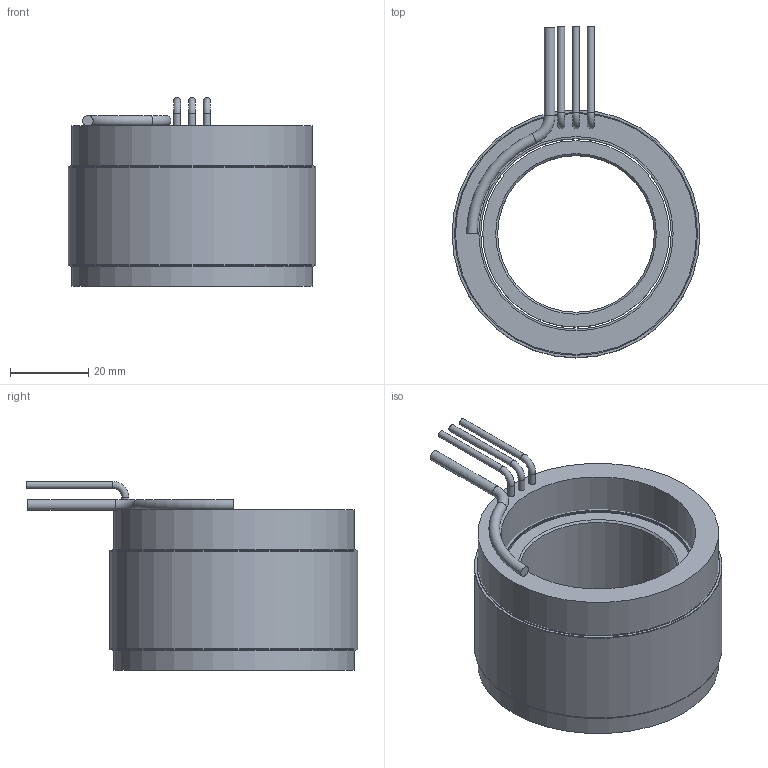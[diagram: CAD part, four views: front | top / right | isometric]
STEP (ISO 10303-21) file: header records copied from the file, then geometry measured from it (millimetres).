
FILE_DESCRIPTION (( 'STEP AP214' ), '1' );
FILE_NAME ('6100391-03.STEP', '2020-12-15T02:39:47', ( '' ), ( '' ), 'SwSTEP 2.0', 'SolidWorks 2016', '' );
FILE_SCHEMA (( 'AUTOMOTIVE_DESIGN' ));
Length unit declared in the file: inch
Products named in the file (10): 4400101-00; 4450189-XX_4450189-03; 6100391-03; 4250379-XX_4250379-03; 4150178-XX_4150178-03; 4500558-XX_4500558-03; COMP4500558-XX(COIL)_COMP4500558-03(COIL); 4600565-00
Assembly tree (10 placements, depth 4):
  6100391-03
    4250379-XX_4250379-03
      4150178-XX_4150178-03
    4500558-XX_4500558-03
      4450189-XX_4450189-03
        4450189-XX_4450189-03
        4400101-00
        4400101-00
        4600565-00  x2
      COMP4500558-XX(COIL)_COMP4500558-03(COIL)
Bounding box: 63.5 x 84.96 x 48.39 mm (x, y, z)
Volume: 90519 mm3; surface area: 47160.8 mm2
Topology: 8 solids, 8 shells, 47 faces, 74 edges, 46 vertices
Faces by surface type: cylinder 21, plane 19, torus 5, cone 2
Full cylindrical faces by diameter (mm): 1.778 x6, 2.72 x1, 40.132 x1, 47.752 x1, 48.768 x5, 49.783 x1, 61.722 x1, 62.23 x2, 63.5 x3
Entity records: 1305 total; most frequent: DIRECTION 202, CARTESIAN_POINT 143, AXIS2_PLACEMENT_3D 101, EDGE_LOOP 84, ORIENTED_EDGE 84, FACE_OUTER_BOUND 67, ADVANCED_FACE 43, VERTEX_POINT 42
